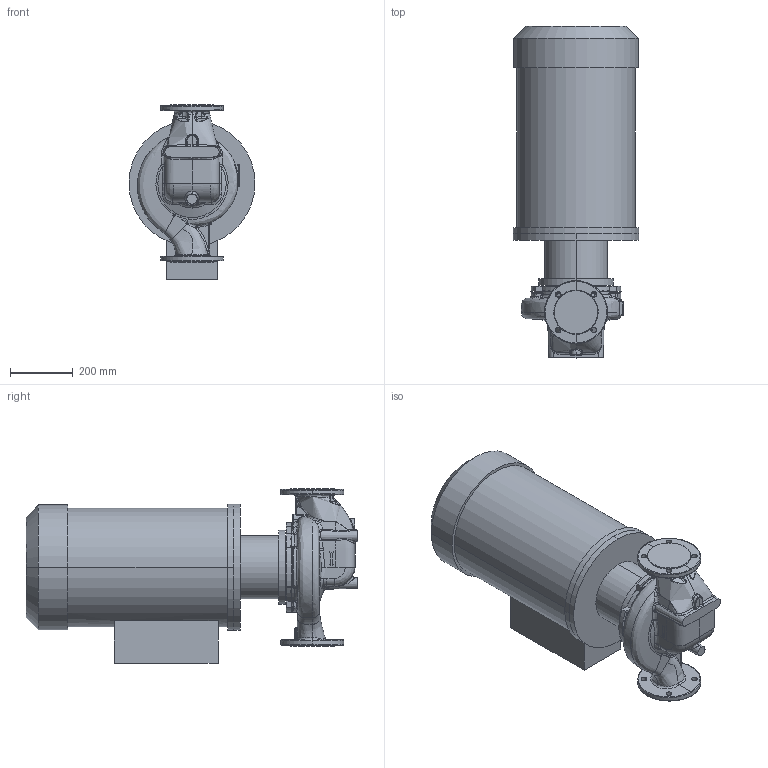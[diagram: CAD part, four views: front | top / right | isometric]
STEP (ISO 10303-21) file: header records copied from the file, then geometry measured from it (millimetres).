
FILE_DESCRIPTION (( 'STEP AP214' ), '1' );
FILE_NAME ('KRL 80-210-2-30.STEP', '2026-04-06T11:31:21', ( '' ), ( '' ), 'SwSTEP 2.0', 'SolidWorks 2016', '' );
FILE_SCHEMA (( 'AUTOMOTIVE_DESIGN' ));
Length unit declared in the file: millimetre
Products named in the file (1): KRL 80-210-2-30
Bounding box: 400 x 1054.3 x 555 mm (x, y, z)
Volume: 103159910.4 mm3; surface area: 2226953 mm2
Topology: 4 solids, 4 shells, 669 faces, 1656 edges, 986 vertices
Faces by surface type: bspline 324, plane 126, cylinder 120, cone 50, torus 28, sphere 21
Entity records: 69302 total; most frequent: CARTESIAN_POINT 49060, ORIENTED_EDGE 3256, DIRECTION 1900, EDGE_CURVE 1628, VERTEX_POINT 986, AXIS2_PLACEMENT_3D 811, B_SPLINE_CURVE_WITH_KNOTS 757, EDGE_LOOP 704
